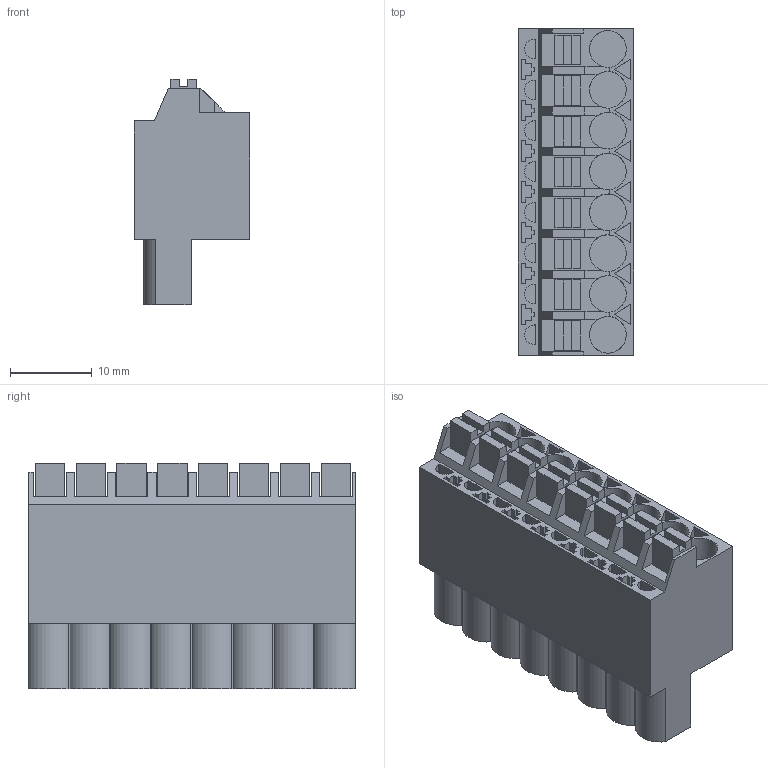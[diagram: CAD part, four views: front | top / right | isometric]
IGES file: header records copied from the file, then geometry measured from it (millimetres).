
Global section: file name: SBC_IGS_ACC_440549950_Plug-A8_2021-03-21.igs; native system: CAD Exchanger; preprocessor: CAD Exchanger 3.9.1 (cadexchanger.com); date: 20210321.230530; units: millimetre
Bounding box: 14.2 x 40 x 27.6 mm (x, y, z)
Volume: 9742.5 mm3; surface area: 6024.1 mm2
Topology: 9 solids, 9 shells, 321 faces, 859 edges, 578 vertices
Faces by surface type: plane 297, cylinder 24
Full cylindrical faces by diameter (mm): 4.5 x8
